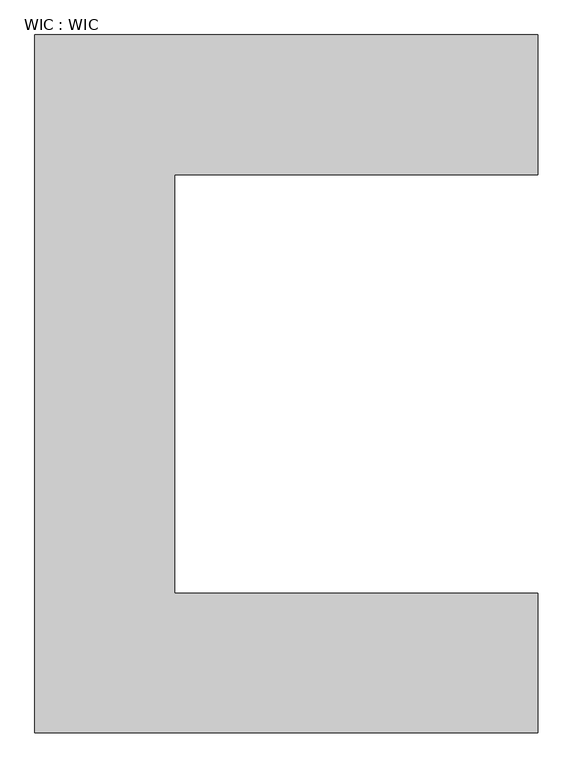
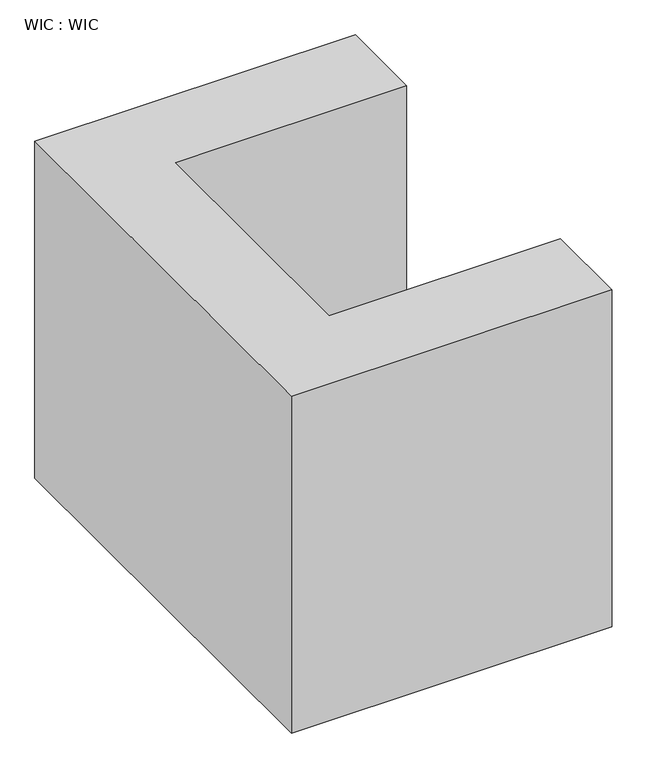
"""IFC4 building model written with IfcOpenShell, lengths in millimetres: furniture geometry, WIC : WIC."""

from ifc_helpers import new_model, si_unit, frame, origin, place, context, project, spatial, polyline, outline, extrude, source, transform, mapped, element, save


def wic_wic_6387dbf6(model_context):
    return source(origin(), model_context, "Body", "SweptSolid", [
        extrude(outline(polyline([(-3231.2135347, 717.8022092), (-3231.2135347, -1076.9389803), (-1671.2135347, -1076.9389803), (-1671.2135347, -1676.9389803), (-3831.2135347, -1676.9389803), (-3831.2135347, 1317.8022092), (-1671.2135347, 1317.8022092), (-1671.2135347, 717.8022092), (-3231.2135347, 717.8022092)])), frame((0.0, 0.0, 150.0), z_axis=(0.0, 0.0, 1.0), x_axis=(1.0, 0.0, 0.0)), (0.0, 0.0, 1.0), 2400.0),
    ])


if __name__ == "__main__":
    model = new_model("IFC4")
    model_context = context("Model", 3, world=origin())
    ifc_project = project(units=[si_unit("LENGTHUNIT", "METRE", prefix="MILLI")], contexts=[model_context])
    site = spatial("IfcSite", under=ifc_project)
    building = spatial("IfcBuilding", under=site)
    placement = place(None, origin())
    wic_wic_shape = wic_wic_6387dbf6(model_context)
    element("IfcFurniture", 1, ObjectType="WIC : WIC", at=placement, inside=building, context=model_context, shape_type="MappedRepresentation", body=[
        mapped(wic_wic_shape, transform((0.0, 0.0, 0.0), x_axis=(1.0, 0.0, 0.0), y_axis=(0.0, 1.0, 0.0), z_axis=(0.0, 0.0, 1.0))),
    ])
    save(model, "model.ifc")
